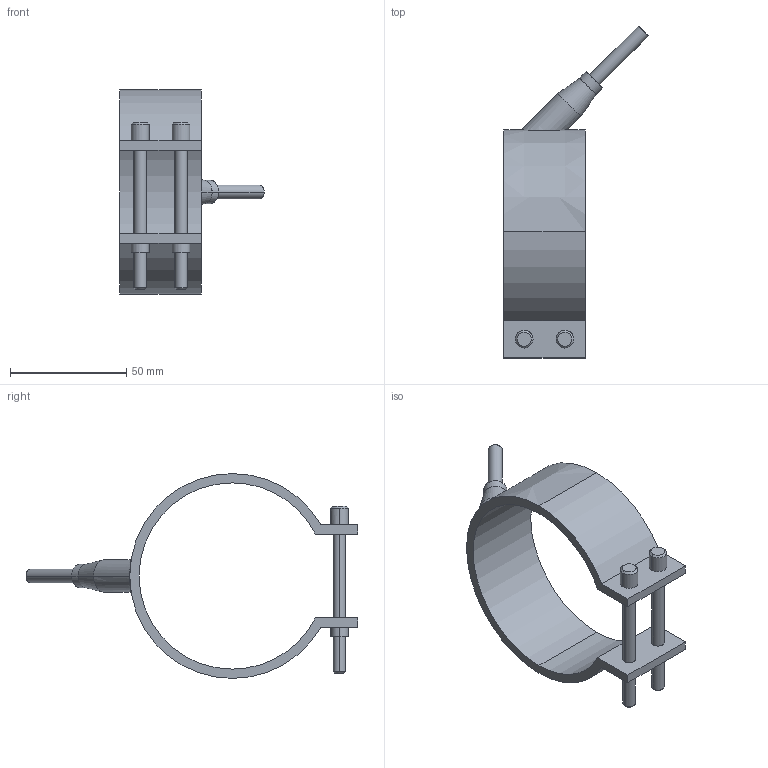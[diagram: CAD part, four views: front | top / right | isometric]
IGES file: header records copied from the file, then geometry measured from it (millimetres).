
Start section: START RECORD GO HERE.
Global section: file name: 29080035.igs; native system: DASSAULT SYSTEMES CATIA V5 R20 - www.3ds.com; preprocessor: CATIA Version 5 Release 20 ; author: Utente; organization: NB04-ASUS; date: 20210329.201019; units: millimetre
Bounding box: 62.05 x 142.55 x 88 mm (x, y, z)
Surface area: 24118.4 mm2 (no closed solid volume)
Topology: 0 solids, 0 shells, 54 faces, 246 edges, 246 vertices
Faces by surface type: revolution 38, plane 16
